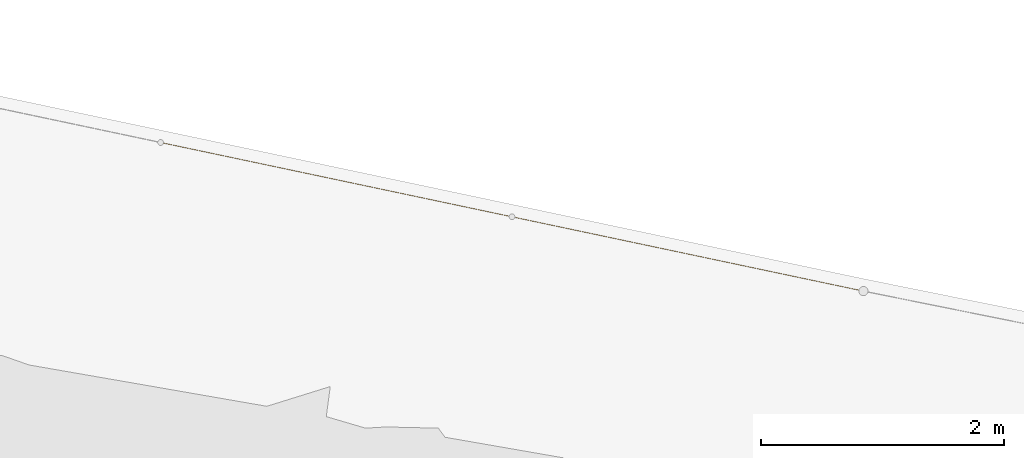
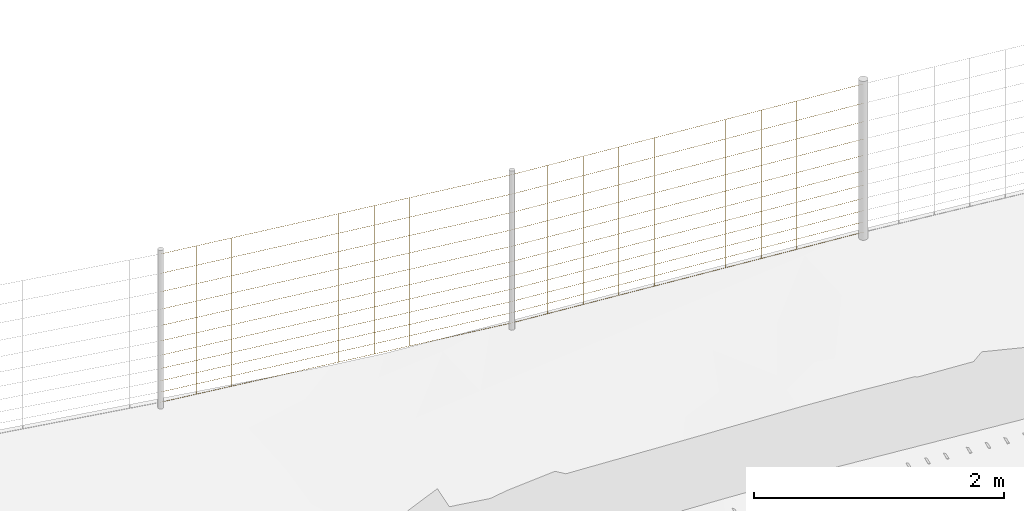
# Not in any storey, part 54 of 72: 2 railings.
"""IFC4 model written with IfcOpenShell, lengths in metres."""

from ifc_helpers import new_model, si_unit, direction, frame, origin_with_axes, place, context, subcontext, project, spatial, polygons, material, element, save


model = new_model("IFC4")

# Units and contexts
model_context = context("Model", 3, precision=1e-05, world=origin_with_axes(), true_north=direction((0.0, 1.0)))
body_context = subcontext(model_context, "Body", "Model", "MODEL_VIEW")
ifc_project = project(units=[si_unit("AREAUNIT", "SQUARE_METRE"), si_unit("VOLUMEUNIT", "CUBIC_METRE"), si_unit("LENGTHUNIT", "METRE")], contexts=[model_context])

# Site
site_placement = place(None, origin_with_axes())
site = spatial("IfcSite", under=ifc_project, at=site_placement, Name="Lares · Rua das Mercês · artigo 4771")

# Railings
ifc_material = material(Name="Aço galvanizado / Stahl verzinkt", Category="steel")
railing_1_placement = place(site_placement, frame((0.0, 0.0, 0.0), z_axis=(0.0, 0.0, 1.0), x_axis=(1.0, -1.03767253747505e-17, 0.0)))
element("IfcRailing", 1, at=railing_1_placement, inside=site, material=ifc_material, Name="Vedação · rede ovelheira 1.073", ObjectType="SHEEP_WIRE_FENCE", PredefinedType="USERDEFINED", context=body_context, shape_type="Tessellation", body=[
    polygons([(59.4039696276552, 12.5941865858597, 15.3828746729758), (59.4043461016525, 12.5956401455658, 15.3813761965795), (59.4045903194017, 12.5971216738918, 15.3828746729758), (59.4042138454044, 12.5956681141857, 15.3843731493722), (62.3007641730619, 11.9815928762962, 15.5164278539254), (62.3011406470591, 11.9830464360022, 15.5149293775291), (62.3013848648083, 11.9845279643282, 15.5164278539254), (62.301008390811, 11.9830744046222, 15.5179263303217), (59.4039696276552, 12.5941865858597, 15.4828746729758), (59.4043461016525, 12.5956401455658, 15.4813761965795), (59.4045903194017, 12.5971216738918, 15.4828746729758), (59.4042138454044, 12.5956681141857, 15.4843731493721), (62.3007641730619, 11.9815928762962, 15.6164278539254), (62.3011406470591, 11.9830464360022, 15.6149293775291), (62.3013848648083, 11.9845279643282, 15.6164278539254), (62.301008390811, 11.9830744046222, 15.6179263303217), (59.4039696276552, 12.5941865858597, 15.5928746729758), (59.4043461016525, 12.5956401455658, 15.5913761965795), (59.4045903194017, 12.5971216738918, 15.5928746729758), (59.4042138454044, 12.5956681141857, 15.5943731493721), (62.3007641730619, 11.9815928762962, 15.7264278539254), (62.3011406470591, 11.9830464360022, 15.7249293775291), (62.3013848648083, 11.9845279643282, 15.7264278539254), (62.301008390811, 11.9830744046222, 15.7279263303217), (59.4039696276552, 12.5941865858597, 15.7128746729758), (59.4043461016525, 12.5956401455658, 15.7113761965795), (59.4045903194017, 12.5971216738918, 15.7128746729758), (59.4042138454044, 12.5956681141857, 15.7143731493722), (62.3007641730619, 11.9815928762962, 15.8464278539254), (62.3011406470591, 11.9830464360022, 15.8449293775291), (62.3013848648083, 11.9845279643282, 15.8464278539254), (62.301008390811, 11.9830744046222, 15.8479263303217), (59.4039696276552, 12.5941865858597, 15.8428746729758), (59.4043461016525, 12.5956401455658, 15.8413761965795), (59.4045903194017, 12.5971216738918, 15.8428746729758), (59.4042138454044, 12.5956681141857, 15.8443731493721), (62.3007641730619, 11.9815928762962, 15.9764278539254), (62.3011406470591, 11.9830464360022, 15.9749293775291), (62.3013848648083, 11.9845279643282, 15.9764278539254), (62.301008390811, 11.9830744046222, 15.9779263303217), (59.4039696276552, 12.5941865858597, 15.9828746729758), (59.4043461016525, 12.5956401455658, 15.9813761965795), (59.4045903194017, 12.5971216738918, 15.9828746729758), (59.4042138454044, 12.5956681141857, 15.9843731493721), (62.3007641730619, 11.9815928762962, 16.1164278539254), (62.3011406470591, 11.9830464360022, 16.1149293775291), (62.3013848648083, 11.9845279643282, 16.1164278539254), (62.301008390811, 11.9830744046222, 16.1179263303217), (59.4039696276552, 12.5941865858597, 16.1328746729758), (59.4043461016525, 12.5956401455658, 16.1313761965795), (59.4045903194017, 12.5971216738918, 16.1328746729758), (59.4042138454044, 12.5956681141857, 16.1343731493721), (62.3007641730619, 11.9815928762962, 16.2664278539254), (62.3011406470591, 11.9830464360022, 16.2649293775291), (62.3013848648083, 11.9845279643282, 16.2664278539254), (62.301008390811, 11.9830744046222, 16.2679263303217), (59.4039696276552, 12.5941865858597, 16.2928746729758), (59.4043461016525, 12.5956401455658, 16.2913761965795), (59.4045903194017, 12.5971216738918, 16.2928746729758), (59.4042138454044, 12.5956681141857, 16.2943731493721), (62.3007641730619, 11.9815928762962, 16.4264278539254), (62.3011406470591, 11.9830464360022, 16.4249293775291), (62.3013848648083, 11.9845279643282, 16.4264278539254), (62.301008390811, 11.9830744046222, 16.4279263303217), (59.4039696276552, 12.5941865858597, 16.4628746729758), (59.4043461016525, 12.5956401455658, 16.4613761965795), (59.4045903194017, 12.5971216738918, 16.4628746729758), (59.4042138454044, 12.5956681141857, 16.4643731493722), (62.3007641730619, 11.9815928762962, 16.5964278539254), (62.3011406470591, 11.9830464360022, 16.5949293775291), (62.3013848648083, 11.9845279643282, 16.5964278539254), (62.301008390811, 11.9830744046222, 16.5979263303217), (59.4039696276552, 12.5941865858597, 16.6428746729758), (59.4043461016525, 12.5956401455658, 16.6413761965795), (59.4045903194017, 12.5971216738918, 16.6428746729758), (59.4042138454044, 12.5956681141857, 16.6443731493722), (62.3007641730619, 11.9815928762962, 16.7764278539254), (62.3011406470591, 11.9830464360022, 16.7749293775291), (62.3013848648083, 11.9845279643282, 16.7764278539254), (62.301008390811, 11.9830744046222, 16.7779263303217), (59.4039696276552, 12.5941865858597, 16.8328746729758), (59.4043461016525, 12.5956401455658, 16.8313761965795), (59.4045903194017, 12.5971216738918, 16.8328746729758), (59.4042138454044, 12.5956681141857, 16.8343731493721), (62.3007641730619, 11.9815928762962, 16.9664278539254), (62.3011406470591, 11.9830464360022, 16.9649293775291), (62.3013848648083, 11.9845279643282, 16.9664278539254), (62.301008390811, 11.9830744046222, 16.9679263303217), (59.6977887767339, 12.5350849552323, 15.3964065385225), (59.6962887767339, 12.5335849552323, 15.3964065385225), (59.6977887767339, 12.5320849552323, 15.3964065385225), (59.6992887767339, 12.5335849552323, 15.3964065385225), (59.6977887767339, 12.5350849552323, 16.8464065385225), (59.6962887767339, 12.5335849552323, 16.8464065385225), (59.6977887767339, 12.5320849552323, 16.8464065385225), (59.6992887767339, 12.5335849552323, 16.8464065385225), (59.9912975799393, 12.4730157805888, 15.4099384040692), (59.9897975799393, 12.4715157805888, 15.4099384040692), (59.9912975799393, 12.4700157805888, 15.4099384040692), (59.9927975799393, 12.4715157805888, 15.4099384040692), (59.9912975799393, 12.4730157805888, 16.8599384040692), (59.9897975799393, 12.4715157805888, 16.8599384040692), (59.9912975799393, 12.4700157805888, 16.8599384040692), (59.9927975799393, 12.4715157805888, 16.8599384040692), (60.2848063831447, 12.4109466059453, 15.4234702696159), (60.2833063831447, 12.4094466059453, 15.4234702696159), (60.2848063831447, 12.4079466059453, 15.4234702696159), (60.2863063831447, 12.4094466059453, 15.4234702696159), (60.2848063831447, 12.4109466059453, 16.8734702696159), (60.2833063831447, 12.4094466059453, 16.8734702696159), (60.2848063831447, 12.4079466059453, 16.8734702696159), (60.2863063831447, 12.4094466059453, 16.8734702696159), (60.5783151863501, 12.3488774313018, 15.4370021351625), (60.5768151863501, 12.3473774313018, 15.4370021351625), (60.5783151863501, 12.3458774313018, 15.4370021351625), (60.5798151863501, 12.3473774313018, 15.4370021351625), (60.5783151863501, 12.3488774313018, 16.8870021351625), (60.5768151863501, 12.3473774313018, 16.8870021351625), (60.5783151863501, 12.3458774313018, 16.8870021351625), (60.5798151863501, 12.3473774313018, 16.8870021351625), (60.8718239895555, 12.2868082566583, 15.4505340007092), (60.8703239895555, 12.2853082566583, 15.4505340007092), (60.8718239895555, 12.2838082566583, 15.4505340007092), (60.8733239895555, 12.2853082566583, 15.4505340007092), (60.8718239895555, 12.2868082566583, 16.9005340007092), (60.8703239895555, 12.2853082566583, 16.9005340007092), (60.8718239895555, 12.2838082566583, 16.9005340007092), (60.8733239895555, 12.2853082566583, 16.9005340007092), (61.1653327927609, 12.2247390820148, 15.4640658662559), (61.1638327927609, 12.2232390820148, 15.4640658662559), (61.1653327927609, 12.2217390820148, 15.4640658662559), (61.1668327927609, 12.2232390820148, 15.4640658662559), (61.1653327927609, 12.2247390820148, 16.9140658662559), (61.1638327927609, 12.2232390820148, 16.9140658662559), (61.1653327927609, 12.2217390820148, 16.9140658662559), (61.1668327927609, 12.2232390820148, 16.9140658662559), (61.4588415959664, 12.1626699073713, 15.4775977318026), (61.4573415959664, 12.1611699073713, 15.4775977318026), (61.4588415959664, 12.1596699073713, 15.4775977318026), (61.4603415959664, 12.1611699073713, 15.4775977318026), (61.4588415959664, 12.1626699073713, 16.9275977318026), (61.4573415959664, 12.1611699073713, 16.9275977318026), (61.4588415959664, 12.1596699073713, 16.9275977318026), (61.4603415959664, 12.1611699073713, 16.9275977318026), (61.7523503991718, 12.1006007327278, 15.4911295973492), (61.7508503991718, 12.0991007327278, 15.4911295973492), (61.7523503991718, 12.0976007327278, 15.4911295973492), (61.7538503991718, 12.0991007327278, 15.4911295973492), (61.7523503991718, 12.1006007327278, 16.9411295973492), (61.7508503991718, 12.0991007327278, 16.9411295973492), (61.7523503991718, 12.0976007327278, 16.9411295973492), (61.7538503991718, 12.0991007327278, 16.9411295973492), (62.0458592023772, 12.0385315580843, 15.5046614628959), (62.0443592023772, 12.0370315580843, 15.5046614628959), (62.0458592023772, 12.0355315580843, 15.5046614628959), (62.0473592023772, 12.0370315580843, 15.5046614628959), (62.0458592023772, 12.0385315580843, 16.9546614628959), (62.0443592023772, 12.0370315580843, 16.9546614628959), (62.0458592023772, 12.0355315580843, 16.9546614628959), (62.0473592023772, 12.0370315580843, 16.9546614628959)], [[[4, 3, 2, 1]], [[5, 6, 7, 8]], [[1, 2, 6, 5]], [[2, 3, 7, 6]], [[3, 4, 8, 7]], [[4, 1, 5, 8]], [[12, 11, 10, 9]], [[13, 14, 15, 16]], [[9, 10, 14, 13]], [[10, 11, 15, 14]], [[11, 12, 16, 15]], [[12, 9, 13, 16]], [[20, 19, 18, 17]], [[21, 22, 23, 24]], [[17, 18, 22, 21]], [[18, 19, 23, 22]], [[19, 20, 24, 23]], [[20, 17, 21, 24]], [[28, 27, 26, 25]], [[29, 30, 31, 32]], [[25, 26, 30, 29]], [[26, 27, 31, 30]], [[27, 28, 32, 31]], [[28, 25, 29, 32]], [[36, 35, 34, 33]], [[37, 38, 39, 40]], [[33, 34, 38, 37]], [[34, 35, 39, 38]], [[35, 36, 40, 39]], [[36, 33, 37, 40]], [[44, 43, 42, 41]], [[45, 46, 47, 48]], [[41, 42, 46, 45]], [[42, 43, 47, 46]], [[43, 44, 48, 47]], [[44, 41, 45, 48]], [[52, 51, 50, 49]], [[53, 54, 55, 56]], [[49, 50, 54, 53]], [[50, 51, 55, 54]], [[51, 52, 56, 55]], [[52, 49, 53, 56]], [[60, 59, 58, 57]], [[61, 62, 63, 64]], [[57, 58, 62, 61]], [[58, 59, 63, 62]], [[59, 60, 64, 63]], [[60, 57, 61, 64]], [[68, 67, 66, 65]], [[69, 70, 71, 72]], [[65, 66, 70, 69]], [[66, 67, 71, 70]], [[67, 68, 72, 71]], [[68, 65, 69, 72]], [[76, 75, 74, 73]], [[77, 78, 79, 80]], [[73, 74, 78, 77]], [[74, 75, 79, 78]], [[75, 76, 80, 79]], [[76, 73, 77, 80]], [[84, 83, 82, 81]], [[85, 86, 87, 88]], [[81, 82, 86, 85]], [[82, 83, 87, 86]], [[83, 84, 88, 87]], [[84, 81, 85, 88]], [[92, 91, 90, 89]], [[93, 94, 95, 96]], [[89, 90, 94, 93]], [[90, 91, 95, 94]], [[91, 92, 96, 95]], [[92, 89, 93, 96]], [[100, 99, 98, 97]], [[101, 102, 103, 104]], [[97, 98, 102, 101]], [[98, 99, 103, 102]], [[99, 100, 104, 103]], [[100, 97, 101, 104]], [[108, 107, 106, 105]], [[109, 110, 111, 112]], [[105, 106, 110, 109]], [[106, 107, 111, 110]], [[107, 108, 112, 111]], [[108, 105, 109, 112]], [[116, 115, 114, 113]], [[117, 118, 119, 120]], [[113, 114, 118, 117]], [[114, 115, 119, 118]], [[115, 116, 120, 119]], [[116, 113, 117, 120]], [[124, 123, 122, 121]], [[125, 126, 127, 128]], [[121, 122, 126, 125]], [[122, 123, 127, 126]], [[123, 124, 128, 127]], [[124, 121, 125, 128]], [[132, 131, 130, 129]], [[133, 134, 135, 136]], [[129, 130, 134, 133]], [[130, 131, 135, 134]], [[131, 132, 136, 135]], [[132, 129, 133, 136]], [[140, 139, 138, 137]], [[141, 142, 143, 144]], [[137, 138, 142, 141]], [[138, 139, 143, 142]], [[139, 140, 144, 143]], [[140, 137, 141, 144]], [[148, 147, 146, 145]], [[149, 150, 151, 152]], [[145, 146, 150, 149]], [[146, 147, 151, 150]], [[147, 148, 152, 151]], [[148, 145, 149, 152]], [[156, 155, 154, 153]], [[157, 158, 159, 160]], [[153, 154, 158, 157]], [[154, 155, 159, 158]], [[155, 156, 160, 159]], [[156, 153, 157, 160]]]),
])
railing_2_placement = place(site_placement, frame((0.0, 0.0, 0.0), z_axis=(0.0, 0.0, 1.0), x_axis=(1.0, -1.03767253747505e-17, 0.0)))
element("IfcRailing", 2, at=railing_2_placement, inside=site, material=ifc_material, Name="Vedação · rede ovelheira 1.074", ObjectType="SHEEP_WIRE_FENCE", PredefinedType="USERDEFINED", context=body_context, shape_type="Tessellation", body=[
    polygons([(62.3007641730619, 11.9815928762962, 15.5164278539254), (62.3011953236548, 11.9830348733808, 15.5149329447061), (62.3013848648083, 11.9845279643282, 15.5164278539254), (62.3009537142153, 11.9830859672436, 15.5179227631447), (65.1975587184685, 11.3689991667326, 15.7609887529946), (65.1979898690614, 11.3704411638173, 15.7594938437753), (65.1981794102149, 11.3719342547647, 15.7609887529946), (65.1977482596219, 11.37049225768, 15.7624836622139), (62.3007641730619, 11.9815928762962, 15.6164278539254), (62.3011953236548, 11.9830348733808, 15.6149329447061), (62.3013848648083, 11.9845279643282, 15.6164278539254), (62.3009537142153, 11.9830859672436, 15.6179227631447), (65.1975587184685, 11.3689991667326, 15.8609887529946), (65.1979898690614, 11.3704411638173, 15.8594938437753), (65.1981794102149, 11.3719342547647, 15.8609887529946), (65.1977482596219, 11.37049225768, 15.8624836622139), (62.3007641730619, 11.9815928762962, 15.7264278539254), (62.3011953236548, 11.9830348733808, 15.7249329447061), (62.3013848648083, 11.9845279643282, 15.7264278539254), (62.3009537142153, 11.9830859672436, 15.7279227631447), (65.1975587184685, 11.3689991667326, 15.9709887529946), (65.1979898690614, 11.3704411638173, 15.9694938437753), (65.1981794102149, 11.3719342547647, 15.9709887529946), (65.1977482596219, 11.37049225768, 15.9724836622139), (62.3007641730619, 11.9815928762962, 15.8464278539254), (62.3011953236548, 11.9830348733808, 15.8449329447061), (62.3013848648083, 11.9845279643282, 15.8464278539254), (62.3009537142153, 11.9830859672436, 15.8479227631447), (65.1975587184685, 11.3689991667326, 16.0909887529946), (65.1979898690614, 11.3704411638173, 16.0894938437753), (65.1981794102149, 11.3719342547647, 16.0909887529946), (65.1977482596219, 11.37049225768, 16.0924836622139), (62.3007641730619, 11.9815928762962, 15.9764278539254), (62.3011953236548, 11.9830348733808, 15.9749329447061), (62.3013848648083, 11.9845279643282, 15.9764278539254), (62.3009537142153, 11.9830859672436, 15.9779227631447), (65.1975587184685, 11.3689991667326, 16.2209887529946), (65.1979898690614, 11.3704411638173, 16.2194938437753), (65.1981794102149, 11.3719342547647, 16.2209887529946), (65.1977482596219, 11.37049225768, 16.2224836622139), (62.3007641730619, 11.9815928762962, 16.1164278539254), (62.3011953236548, 11.9830348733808, 16.1149329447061), (62.3013848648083, 11.9845279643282, 16.1164278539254), (62.3009537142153, 11.9830859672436, 16.1179227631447), (65.1975587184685, 11.3689991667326, 16.3609887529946), (65.1979898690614, 11.3704411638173, 16.3594938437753), (65.1981794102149, 11.3719342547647, 16.3609887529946), (65.1977482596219, 11.37049225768, 16.3624836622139), (62.3007641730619, 11.9815928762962, 16.2664278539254), (62.3011953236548, 11.9830348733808, 16.2649329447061), (62.3013848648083, 11.9845279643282, 16.2664278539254), (62.3009537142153, 11.9830859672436, 16.2679227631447), (65.1975587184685, 11.3689991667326, 16.5109887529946), (65.1979898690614, 11.3704411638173, 16.5094938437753), (65.1981794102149, 11.3719342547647, 16.5109887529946), (65.1977482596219, 11.37049225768, 16.5124836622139), (62.3007641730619, 11.9815928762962, 16.4264278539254), (62.3011953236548, 11.9830348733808, 16.4249329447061), (62.3013848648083, 11.9845279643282, 16.4264278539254), (62.3009537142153, 11.9830859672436, 16.4279227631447), (65.1975587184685, 11.3689991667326, 16.6709887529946), (65.1979898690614, 11.3704411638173, 16.6694938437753), (65.1981794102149, 11.3719342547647, 16.6709887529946), (65.1977482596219, 11.37049225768, 16.6724836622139), (62.3007641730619, 11.9815928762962, 16.5964278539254), (62.3011953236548, 11.9830348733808, 16.5949329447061), (62.3013848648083, 11.9845279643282, 16.5964278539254), (62.3009537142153, 11.9830859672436, 16.5979227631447), (65.1975587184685, 11.3689991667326, 16.8409887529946), (65.1979898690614, 11.3704411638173, 16.8394938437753), (65.1981794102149, 11.3719342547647, 16.8409887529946), (65.1977482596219, 11.37049225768, 16.8424836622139), (62.3007641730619, 11.9815928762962, 16.7764278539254), (62.3011953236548, 11.9830348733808, 16.7749329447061), (62.3013848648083, 11.9845279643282, 16.7764278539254), (62.3009537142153, 11.9830859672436, 16.7779227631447), (65.1975587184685, 11.3689991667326, 17.0209887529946), (65.1979898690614, 11.3704411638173, 17.0194938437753), (65.1981794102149, 11.3719342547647, 17.0209887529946), (65.1977482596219, 11.37049225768, 17.0224836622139), (62.3007641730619, 11.9815928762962, 16.9664278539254), (62.3011953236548, 11.9830348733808, 16.9649329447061), (62.3013848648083, 11.9845279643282, 16.9664278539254), (62.3009537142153, 11.9830859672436, 16.9679227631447), (65.1975587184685, 11.3689991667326, 17.2109887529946), (65.1979898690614, 11.3704411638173, 17.2094938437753), (65.1981794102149, 11.3719342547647, 17.2109887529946), (65.1977482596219, 11.37049225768, 17.2124836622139), (62.5945833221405, 11.9224912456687, 15.5412072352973), (62.5930833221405, 11.9209912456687, 15.5412072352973), (62.5945833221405, 11.9194912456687, 15.5412072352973), (62.5960833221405, 11.9209912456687, 15.5412072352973), (62.5945833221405, 11.9224912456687, 16.9912072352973), (62.5930833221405, 11.9209912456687, 16.9912072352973), (62.5945833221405, 11.9194912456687, 16.9912072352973), (62.5960833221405, 11.9209912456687, 16.9912072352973), (62.8880921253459, 11.8604220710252, 15.5659866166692), (62.8865921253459, 11.8589220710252, 15.5659866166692), (62.8880921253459, 11.8574220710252, 15.5659866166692), (62.8895921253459, 11.8589220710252, 15.5659866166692), (62.8880921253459, 11.8604220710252, 17.0159866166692), (62.8865921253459, 11.8589220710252, 17.0159866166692), (62.8880921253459, 11.8574220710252, 17.0159866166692), (62.8895921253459, 11.8589220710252, 17.0159866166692), (63.1816009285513, 11.7983528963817, 15.5907659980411), (63.1801009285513, 11.7968528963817, 15.5907659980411), (63.1816009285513, 11.7953528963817, 15.5907659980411), (63.1831009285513, 11.7968528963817, 15.5907659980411), (63.1816009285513, 11.7983528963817, 17.0407659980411), (63.1801009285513, 11.7968528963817, 17.0407659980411), (63.1816009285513, 11.7953528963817, 17.0407659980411), (63.1831009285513, 11.7968528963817, 17.0407659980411), (63.4751097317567, 11.7362837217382, 15.615545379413), (63.4736097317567, 11.7347837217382, 15.615545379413), (63.4751097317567, 11.7332837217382, 15.615545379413), (63.4766097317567, 11.7347837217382, 15.615545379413), (63.4751097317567, 11.7362837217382, 17.065545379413), (63.4736097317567, 11.7347837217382, 17.065545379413), (63.4751097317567, 11.7332837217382, 17.065545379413), (63.4766097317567, 11.7347837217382, 17.065545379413), (63.7686185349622, 11.6742145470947, 15.6403247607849), (63.7671185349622, 11.6727145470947, 15.6403247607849), (63.7686185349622, 11.6712145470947, 15.6403247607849), (63.7701185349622, 11.6727145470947, 15.6403247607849), (63.7686185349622, 11.6742145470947, 17.0903247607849), (63.7671185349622, 11.6727145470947, 17.0903247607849), (63.7686185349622, 11.6712145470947, 17.0903247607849), (63.7701185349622, 11.6727145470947, 17.0903247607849), (64.0621273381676, 11.6121453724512, 15.6651041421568), (64.0606273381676, 11.6106453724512, 15.6651041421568), (64.0621273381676, 11.6091453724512, 15.6651041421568), (64.0636273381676, 11.6106453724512, 15.6651041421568), (64.0621273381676, 11.6121453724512, 17.1151041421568), (64.0606273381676, 11.6106453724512, 17.1151041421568), (64.0621273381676, 11.6091453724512, 17.1151041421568), (64.0636273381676, 11.6106453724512, 17.1151041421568), (64.355636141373, 11.5500761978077, 15.6898835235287), (64.354136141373, 11.5485761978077, 15.6898835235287), (64.355636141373, 11.5470761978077, 15.6898835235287), (64.357136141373, 11.5485761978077, 15.6898835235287), (64.355636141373, 11.5500761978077, 17.1398835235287), (64.354136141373, 11.5485761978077, 17.1398835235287), (64.355636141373, 11.5470761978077, 17.1398835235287), (64.357136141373, 11.5485761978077, 17.1398835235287), (64.6491449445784, 11.4880070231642, 15.7146629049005), (64.6476449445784, 11.4865070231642, 15.7146629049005), (64.6491449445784, 11.4850070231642, 15.7146629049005), (64.6506449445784, 11.4865070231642, 15.7146629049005), (64.6491449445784, 11.4880070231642, 17.1646629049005), (64.6476449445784, 11.4865070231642, 17.1646629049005), (64.6491449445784, 11.4850070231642, 17.1646629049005), (64.6506449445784, 11.4865070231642, 17.1646629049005), (64.9426537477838, 11.4259378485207, 15.7394422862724), (64.9411537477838, 11.4244378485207, 15.7394422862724), (64.9426537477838, 11.4229378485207, 15.7394422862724), (64.9441537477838, 11.4244378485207, 15.7394422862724), (64.9426537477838, 11.4259378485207, 17.1894422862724), (64.9411537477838, 11.4244378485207, 17.1894422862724), (64.9426537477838, 11.4229378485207, 17.1894422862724), (64.9441537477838, 11.4244378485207, 17.1894422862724)], [[[4, 3, 2, 1]], [[5, 6, 7, 8]], [[1, 2, 6, 5]], [[2, 3, 7, 6]], [[3, 4, 8, 7]], [[4, 1, 5, 8]], [[12, 11, 10, 9]], [[13, 14, 15, 16]], [[9, 10, 14, 13]], [[10, 11, 15, 14]], [[11, 12, 16, 15]], [[12, 9, 13, 16]], [[20, 19, 18, 17]], [[21, 22, 23, 24]], [[17, 18, 22, 21]], [[18, 19, 23, 22]], [[19, 20, 24, 23]], [[20, 17, 21, 24]], [[28, 27, 26, 25]], [[29, 30, 31, 32]], [[25, 26, 30, 29]], [[26, 27, 31, 30]], [[27, 28, 32, 31]], [[28, 25, 29, 32]], [[36, 35, 34, 33]], [[37, 38, 39, 40]], [[33, 34, 38, 37]], [[34, 35, 39, 38]], [[35, 36, 40, 39]], [[36, 33, 37, 40]], [[44, 43, 42, 41]], [[45, 46, 47, 48]], [[41, 42, 46, 45]], [[42, 43, 47, 46]], [[43, 44, 48, 47]], [[44, 41, 45, 48]], [[52, 51, 50, 49]], [[53, 54, 55, 56]], [[49, 50, 54, 53]], [[50, 51, 55, 54]], [[51, 52, 56, 55]], [[52, 49, 53, 56]], [[60, 59, 58, 57]], [[61, 62, 63, 64]], [[57, 58, 62, 61]], [[58, 59, 63, 62]], [[59, 60, 64, 63]], [[60, 57, 61, 64]], [[68, 67, 66, 65]], [[69, 70, 71, 72]], [[65, 66, 70, 69]], [[66, 67, 71, 70]], [[67, 68, 72, 71]], [[68, 65, 69, 72]], [[76, 75, 74, 73]], [[77, 78, 79, 80]], [[73, 74, 78, 77]], [[74, 75, 79, 78]], [[75, 76, 80, 79]], [[76, 73, 77, 80]], [[84, 83, 82, 81]], [[85, 86, 87, 88]], [[81, 82, 86, 85]], [[82, 83, 87, 86]], [[83, 84, 88, 87]], [[84, 81, 85, 88]], [[92, 91, 90, 89]], [[93, 94, 95, 96]], [[89, 90, 94, 93]], [[90, 91, 95, 94]], [[91, 92, 96, 95]], [[92, 89, 93, 96]], [[100, 99, 98, 97]], [[101, 102, 103, 104]], [[97, 98, 102, 101]], [[98, 99, 103, 102]], [[99, 100, 104, 103]], [[100, 97, 101, 104]], [[108, 107, 106, 105]], [[109, 110, 111, 112]], [[105, 106, 110, 109]], [[106, 107, 111, 110]], [[107, 108, 112, 111]], [[108, 105, 109, 112]], [[116, 115, 114, 113]], [[117, 118, 119, 120]], [[113, 114, 118, 117]], [[114, 115, 119, 118]], [[115, 116, 120, 119]], [[116, 113, 117, 120]], [[124, 123, 122, 121]], [[125, 126, 127, 128]], [[121, 122, 126, 125]], [[122, 123, 127, 126]], [[123, 124, 128, 127]], [[124, 121, 125, 128]], [[132, 131, 130, 129]], [[133, 134, 135, 136]], [[129, 130, 134, 133]], [[130, 131, 135, 134]], [[131, 132, 136, 135]], [[132, 129, 133, 136]], [[140, 139, 138, 137]], [[141, 142, 143, 144]], [[137, 138, 142, 141]], [[138, 139, 143, 142]], [[139, 140, 144, 143]], [[140, 137, 141, 144]], [[148, 147, 146, 145]], [[149, 150, 151, 152]], [[145, 146, 150, 149]], [[146, 147, 151, 150]], [[147, 148, 152, 151]], [[148, 145, 149, 152]], [[156, 155, 154, 153]], [[157, 158, 159, 160]], [[153, 154, 158, 157]], [[154, 155, 159, 158]], [[155, 156, 160, 159]], [[156, 153, 157, 160]]]),
])

save(model, "model.ifc")
